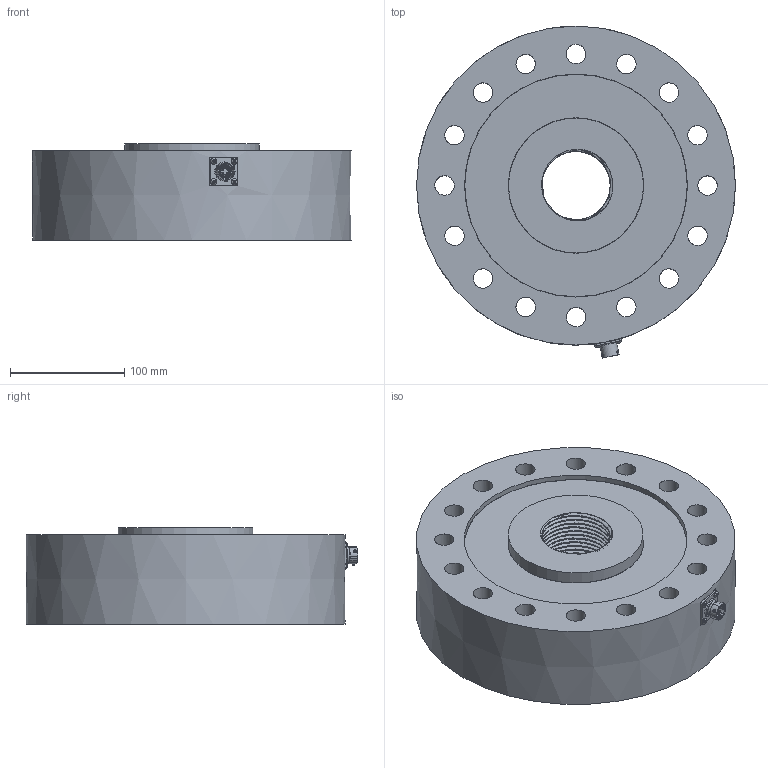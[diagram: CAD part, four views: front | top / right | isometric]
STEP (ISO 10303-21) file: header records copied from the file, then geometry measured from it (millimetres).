
FILE_DESCRIPTION(/* description */ (''),/* implementation_level */ '2;1');
FILE_NAME(/* name */ 'I:/New Datasheets/STEP Models/DSCC Size 3 (M64x4) Space Model v2.step',/* time_stamp */ '2018-09-24T16:15:19+01:00',/* author */ ('ollieVUKN3'),/* organization */ (''),/* preprocessor_version */ 'ST-DEVELOPER v17.2',/* originating_system */ 'Autodesk Translation Framework v7.6.0.251',/* authorisation */ '');
FILE_SCHEMA (('AUTOMOTIVE_DESIGN { 1 0 10303 214 3 1 1 }'));
Length unit declared in the file: millimetre
Products named in the file (2): DSCC Size 3 (M64x4) Space Model; DSCC Size 3 body - space model
Assembly tree (1 placements, depth 2):
  DSCC Size 3 (M64x4) Space Model
    DSCC Size 3 body - space model
Bounding box: 279.01 x 290.33 x 84.03 mm (x, y, z)
Volume: 3952884.6 mm3; surface area: 329020.4 mm2
Topology: 2 solids, 18 shells, 603 faces, 1656 edges, 1130 vertices
Faces by surface type: plane 256, cylinder 171, bspline 81, cone 53, torus 22, sphere 20
Full cylindrical faces by diameter (mm): 1 x3, 1.009 x6, 1.165 x6, 1.2 x6, 1.4 x6, 1.52 x3, 1.6 x3, 2 x12, 2.03 x3, 2.2 x12, 2.529 x4, 3 x4, 3.2 x4, 10.25 x2, 10.9 x1, 11.05 x1, 11.35 x1, 12.55 x1, 13.85 x1, 13.9 x1, 14 x1, 14.95 x1, 15 x1, 17 x16, 59.97 x20, 64.446 x19, 118.5 x2, 194.5 x2
Entity records: 28085 total; most frequent: CARTESIAN_POINT 13102, ORIENTED_EDGE 3300, DIRECTION 2778, EDGE_CURVE 1650, VERTEX_POINT 1131, AXIS2_PLACEMENT_3D 1026, LINE 726, VECTOR 726
